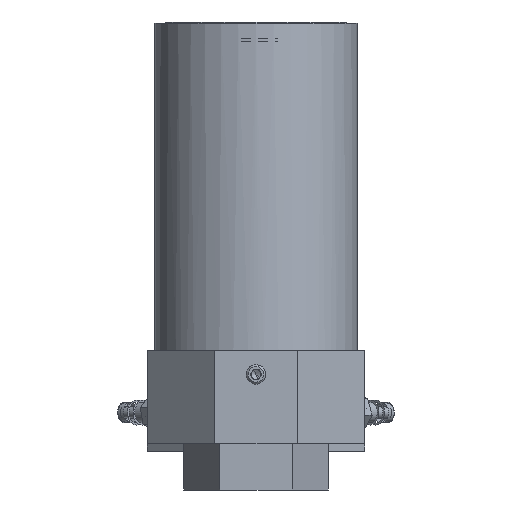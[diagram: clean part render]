
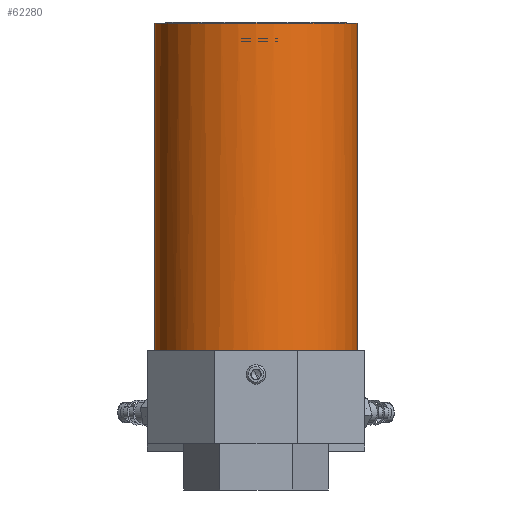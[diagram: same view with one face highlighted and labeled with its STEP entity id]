
A CAD part, left-side view. The second image highlights one B-rep face of the part: STEP entity #62280.
In plain terms, the highlighted cylindrical face has radius 20.637 mm (diameter 41.275 mm), a full revolution.
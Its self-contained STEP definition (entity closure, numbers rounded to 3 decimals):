
#9570=FACE_OUTER_BOUND('',#13464,.T.);
#13464=EDGE_LOOP('',(#51703,#51704,#51705,#51706,#51707,#51708,#51709,#51710,
#51711,#51712,#51713,#51714,#51715,#51716));
#18087=CIRCLE('',#67759,20.638);
#18088=CIRCLE('',#67761,20.638);
#18089=CIRCLE('',#67763,20.638);
#18091=CIRCLE('',#67766,20.638);
#18093=CIRCLE('',#67769,20.638);
#18095=CIRCLE('',#67773,20.638);
#18096=CIRCLE('',#67774,20.638);
#18097=CIRCLE('',#67775,20.638);
#18098=CIRCLE('',#67776,20.638);
#18099=CIRCLE('',#67777,20.638);
#18100=CIRCLE('',#67778,20.638);
#18101=CIRCLE('',#67779,20.638);
#19360=LINE('',#246795,#21165);
#21165=VECTOR('',#79352,20.638);
#26516=VERTEX_POINT('',#246759);
#26517=VERTEX_POINT('',#246760);
#26518=VERTEX_POINT('',#246764);
#26519=VERTEX_POINT('',#246765);
#26520=VERTEX_POINT('',#246769);
#26521=VERTEX_POINT('',#246770);
#26523=VERTEX_POINT('',#246775);
#26524=VERTEX_POINT('',#246777);
#26525=VERTEX_POINT('',#246781);
#26527=VERTEX_POINT('',#246784);
#26529=VERTEX_POINT('',#246792);
#26530=VERTEX_POINT('',#246794);
#35093=EDGE_CURVE('',#26517,#26516,#18087,.T.);
#35095=EDGE_CURVE('',#26518,#26519,#18088,.T.);
#35097=EDGE_CURVE('',#26521,#26520,#18089,.T.);
#35099=EDGE_CURVE('',#26523,#26524,#18091,.T.);
#35103=EDGE_CURVE('',#26527,#26525,#18093,.T.);
#35106=EDGE_CURVE('',#26529,#26529,#18095,.T.);
#35107=EDGE_CURVE('',#26529,#26530,#19360,.T.);
#35108=EDGE_CURVE('',#26525,#26530,#18096,.T.);
#35109=EDGE_CURVE('',#26516,#26527,#18097,.T.);
#35110=EDGE_CURVE('',#26519,#26517,#18098,.T.);
#35111=EDGE_CURVE('',#26520,#26518,#18099,.T.);
#35112=EDGE_CURVE('',#26524,#26521,#18100,.T.);
#35113=EDGE_CURVE('',#26530,#26523,#18101,.T.);
#51703=ORIENTED_EDGE('',*,*,#35106,.T.);
#51704=ORIENTED_EDGE('',*,*,#35107,.T.);
#51705=ORIENTED_EDGE('',*,*,#35108,.F.);
#51706=ORIENTED_EDGE('',*,*,#35103,.F.);
#51707=ORIENTED_EDGE('',*,*,#35109,.F.);
#51708=ORIENTED_EDGE('',*,*,#35093,.F.);
#51709=ORIENTED_EDGE('',*,*,#35110,.F.);
#51710=ORIENTED_EDGE('',*,*,#35095,.F.);
#51711=ORIENTED_EDGE('',*,*,#35111,.F.);
#51712=ORIENTED_EDGE('',*,*,#35097,.F.);
#51713=ORIENTED_EDGE('',*,*,#35112,.F.);
#51714=ORIENTED_EDGE('',*,*,#35099,.F.);
#51715=ORIENTED_EDGE('',*,*,#35113,.F.);
#51716=ORIENTED_EDGE('',*,*,#35107,.F.);
#55110=CYLINDRICAL_SURFACE('',#67772,20.638);
#62280=ADVANCED_FACE('',(#9570),#55110,.T.);
#67759=AXIS2_PLACEMENT_3D('',#246762,#79317,#79318);
#67761=AXIS2_PLACEMENT_3D('',#246767,#79322,#79323);
#67763=AXIS2_PLACEMENT_3D('',#246772,#79327,#79328);
#67766=AXIS2_PLACEMENT_3D('',#246778,#79333,#79334);
#67769=AXIS2_PLACEMENT_3D('',#246786,#79341,#79342);
#67772=AXIS2_PLACEMENT_3D('',#246791,#79348,#79349);
#67773=AXIS2_PLACEMENT_3D('',#246793,#79350,#79351);
#67774=AXIS2_PLACEMENT_3D('',#246796,#79353,#79354);
#67775=AXIS2_PLACEMENT_3D('',#246797,#79355,#79356);
#67776=AXIS2_PLACEMENT_3D('',#246798,#79357,#79358);
#67777=AXIS2_PLACEMENT_3D('',#246799,#79359,#79360);
#67778=AXIS2_PLACEMENT_3D('',#246800,#79361,#79362);
#67779=AXIS2_PLACEMENT_3D('',#246801,#79363,#79364);
#79317=DIRECTION('center_axis',(0.,0.,
-1.));
#79318=DIRECTION('ref_axis',(-1.,0.,0.));
#79322=DIRECTION('center_axis',(0.,0.,
-1.));
#79323=DIRECTION('ref_axis',(-1.,0.,0.));
#79327=DIRECTION('center_axis',(0.,0.,
-1.));
#79328=DIRECTION('ref_axis',(-1.,0.,0.));
#79333=DIRECTION('center_axis',(0.,0.,
-1.));
#79334=DIRECTION('ref_axis',(-1.,0.,0.));
#79341=DIRECTION('center_axis',(0.,0.,
-1.));
#79342=DIRECTION('ref_axis',(-1.,0.,0.));
#79348=DIRECTION('center_axis',(0.,0.,
1.));
#79349=DIRECTION('ref_axis',(-1.,0.,0.));
#79350=DIRECTION('center_axis',(0.,0.,
-1.));
#79351=DIRECTION('ref_axis',(-1.,0.,0.));
#79352=DIRECTION('',(0.,0.,-1.));
#79353=DIRECTION('center_axis',(0.,0.,-1.));
#79354=DIRECTION('ref_axis',(-1.,0.,0.));
#79355=DIRECTION('center_axis',(0.,0.,-1.));
#79356=DIRECTION('ref_axis',(-1.,0.,0.));
#79357=DIRECTION('center_axis',(0.,0.,-1.));
#79358=DIRECTION('ref_axis',(-1.,0.,0.));
#79359=DIRECTION('center_axis',(0.,0.,-1.));
#79360=DIRECTION('ref_axis',(-1.,0.,0.));
#79361=DIRECTION('center_axis',(0.,0.,-1.));
#79362=DIRECTION('ref_axis',(-1.,0.,0.));
#79363=DIRECTION('center_axis',(0.,0.,-1.));
#79364=DIRECTION('ref_axis',(-1.,0.,0.));
#246759=CARTESIAN_POINT('',(-12.65,16.306,18.923));
#246760=CARTESIAN_POINT('',(-16.306,12.65,18.923));
#246762=CARTESIAN_POINT('Origin',(0.,0.,
18.923));
#246764=CARTESIAN_POINT('',(-20.574,-1.618,18.923));
#246765=CARTESIAN_POINT('',(-20.574,1.618,18.923));
#246767=CARTESIAN_POINT('Origin',(0.,0.,
18.923));
#246769=CARTESIAN_POINT('',(-16.306,-12.65,18.923));
#246770=CARTESIAN_POINT('',(-12.65,-16.306,18.923));
#246772=CARTESIAN_POINT('Origin',(0.,0.,
18.923));
#246775=CARTESIAN_POINT('',(15.664,-13.436,18.923));
#246777=CARTESIAN_POINT('',(12.65,-16.306,18.923));
#246778=CARTESIAN_POINT('Origin',(0.,0.,
18.923));
#246781=CARTESIAN_POINT('',(15.664,13.436,18.923));
#246784=CARTESIAN_POINT('',(12.65,16.306,18.923));
#246786=CARTESIAN_POINT('Origin',(0.,0.,
18.923));
#246791=CARTESIAN_POINT('Origin',(0.,0.,
18.923));
#246792=CARTESIAN_POINT('',(20.638,0.,85.471));
#246793=CARTESIAN_POINT('Origin',(0.,0.,
85.471));
#246794=CARTESIAN_POINT('',(20.638,0.,18.923));
#246795=CARTESIAN_POINT('',(20.638,0.,18.923));
#246796=CARTESIAN_POINT('Origin',(0.,0.,
18.923));
#246797=CARTESIAN_POINT('Origin',(0.,0.,
18.923));
#246798=CARTESIAN_POINT('Origin',(0.,0.,
18.923));
#246799=CARTESIAN_POINT('Origin',(0.,0.,
18.923));
#246800=CARTESIAN_POINT('Origin',(0.,0.,
18.923));
#246801=CARTESIAN_POINT('Origin',(0.,0.,
18.923));
